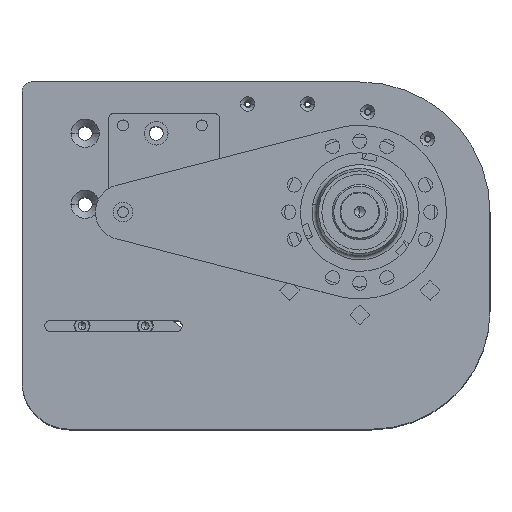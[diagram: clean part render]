
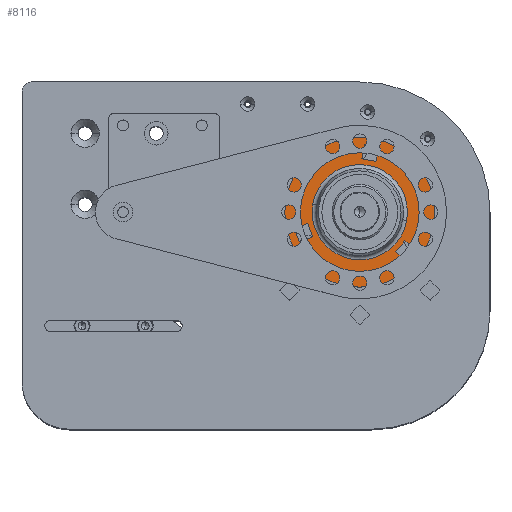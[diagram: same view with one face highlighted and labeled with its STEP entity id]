
A CAD part, top view. The second image highlights one B-rep face of the part: STEP entity #8116.
In plain terms, the highlighted planar face has unit normal (0, 0, 1) as drawn and (1, 0, 0) by its records, which use the part's own axes.
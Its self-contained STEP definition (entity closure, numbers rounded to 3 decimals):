
#495 = EDGE_LOOP ( 'NONE', ( #14896, #14899, #14137, #14839 ) ) ;
#525 = EDGE_LOOP ( 'NONE', ( #14903, #14956, #14961, #14998 ) ) ;
#990 = EDGE_LOOP ( 'NONE', ( #14399, #14143, #14915, #14088 ) ) ;
#1541 = EDGE_LOOP ( 'NONE', ( #14918, #14312 ) ) ;
#1657 = EDGE_LOOP ( 'NONE', ( #14851, #14940 ) ) ;
#2573 = CARTESIAN_POINT ( 'NONE',  ( 2., 0., 30.166 ) ) ;
#2589 = CARTESIAN_POINT ( 'NONE',  ( 2., 0., -47.5 ) ) ;
#2763 = CARTESIAN_POINT ( 'NONE',  ( 2., 17.353, 39.056 ) ) ;
#2766 = CARTESIAN_POINT ( 'NONE',  ( 2., 20.647, 26.762 ) ) ;
#2779 = CARTESIAN_POINT ( 'NONE',  ( 2., 25.147, 34.556 ) ) ;
#2801 = CARTESIAN_POINT ( 'NONE',  ( 2., 25.147, -34.556 ) ) ;
#2897 = CARTESIAN_POINT ( 'NONE',  ( 2., -42.5, -4.5 ) ) ;
#3166 = CARTESIAN_POINT ( 'NONE',  ( 2., -33.5, -4.5 ) ) ;
#3176 = CARTESIAN_POINT ( 'NONE',  ( 2., -33.5, 4.5 ) ) ;
#3186 = CARTESIAN_POINT ( 'NONE',  ( 2., 20.647, -26.762 ) ) ;
#3198 = CARTESIAN_POINT ( 'NONE',  ( 2., 12.853, -31.262 ) ) ;
#3203 = CARTESIAN_POINT ( 'NONE',  ( 2., 17.353, -39.056 ) ) ;
#3206 = CARTESIAN_POINT ( 'NONE',  ( 2., 12.853, 31.262 ) ) ;
#4858 = CARTESIAN_POINT ( 'NONE',  ( 2., 0., 0. ) ) ;
#4859 = DIRECTION ( 'NONE',  ( -1., 0., 0. ) ) ;
#4860 = DIRECTION ( 'NONE',  ( 0., 0., 1. ) ) ;
#4987 = CARTESIAN_POINT ( 'NONE',  ( 2., 0., 0. ) ) ;
#4988 = DIRECTION ( 'NONE',  ( -1., 0., 0. ) ) ;
#4989 = DIRECTION ( 'NONE',  ( 0., 0., 1. ) ) ;
#5062 = CARTESIAN_POINT ( 'NONE',  ( 2., 12.853, 31.262 ) ) ;
#5069 = DIRECTION ( 'NONE',  ( 0., 0.866, -0.5 ) ) ;
#5082 = CARTESIAN_POINT ( 'NONE',  ( 2., 17.353, 39.056 ) ) ;
#5083 = DIRECTION ( 'NONE',  ( 0., -0.5, -0.866 ) ) ;
#5102 = CARTESIAN_POINT ( 'NONE',  ( 2., 17.353, 39.056 ) ) ;
#5103 = DIRECTION ( 'NONE',  ( 0., -0.866, 0.5 ) ) ;
#5145 = CARTESIAN_POINT ( 'NONE',  ( 2., -33.5, -4.5 ) ) ;
#5149 = CARTESIAN_POINT ( 'NONE',  ( 2., -42.5, -4.5 ) ) ;
#5150 = DIRECTION ( 'NONE',  ( 0., 1., 0. ) ) ;
#5151 = DIRECTION ( 'NONE',  ( 0., 0., 1. ) ) ;
#5179 = CARTESIAN_POINT ( 'NONE',  ( 2., 0., 0. ) ) ;
#5180 = DIRECTION ( 'NONE',  ( -1., 0., 0. ) ) ;
#5181 = DIRECTION ( 'NONE',  ( 0., 0., 1. ) ) ;
#5182 = CARTESIAN_POINT ( 'NONE',  ( 2., 0., 0. ) ) ;
#5183 = DIRECTION ( 'NONE',  ( -1., 0., 0. ) ) ;
#5184 = DIRECTION ( 'NONE',  ( 0., 0., 1. ) ) ;
#5185 = CARTESIAN_POINT ( 'NONE',  ( 2., -42.5, 4.5 ) ) ;
#5186 = DIRECTION ( 'NONE',  ( 0., -1., 0. ) ) ;
#5193 = CARTESIAN_POINT ( 'NONE',  ( 2., -42.5, -4.5 ) ) ;
#5194 = DIRECTION ( 'NONE',  ( 0., 0., -1. ) ) ;
#5315 = CARTESIAN_POINT ( 'NONE',  ( 2., 20.647, -26.762 ) ) ;
#5316 = DIRECTION ( 'NONE',  ( 0., -0.866, -0.5 ) ) ;
#5320 = CARTESIAN_POINT ( 'NONE',  ( 2., 17.353, -39.056 ) ) ;
#5324 = CARTESIAN_POINT ( 'NONE',  ( 2., 25.147, 34.556 ) ) ;
#5326 = DIRECTION ( 'NONE',  ( 0., 0.5, 0.866 ) ) ;
#5327 = DIRECTION ( 'NONE',  ( 0., 0.5, -0.866 ) ) ;
#5328 = CARTESIAN_POINT ( 'NONE',  ( 2., 25.147, -34.556 ) ) ;
#5329 = DIRECTION ( 'NONE',  ( 0., 0.866, 0.5 ) ) ;
#5330 = CARTESIAN_POINT ( 'NONE',  ( 2., 25.147, -34.556 ) ) ;
#5331 = DIRECTION ( 'NONE',  ( 0., -0.5, 0.866 ) ) ;
#8116 = ADVANCED_FACE ( 'NONE', ( #9812, #9943, #9946, #9853, #9817 ), #8973, .F. ) ;
#8283 = CIRCLE ( 'NONE', #12406, 30.166 ) ;
#8516 = DIRECTION ( 'NONE',  ( -1., 0., 0. ) ) ;
#8973 = PLANE ( 'NONE',  #12083 ) ;
#9088 = CARTESIAN_POINT ( 'NONE',  ( 2., 47.5, 0. ) ) ;
#9093 = DIRECTION ( 'NONE',  ( 0., 0., -1. ) ) ;
#9395 = EDGE_CURVE ( 'NONE', #13768, #13869, #8283, .T. ) ;
#9438 = EDGE_CURVE ( 'NONE', #13885, #13770, #15075, .T. ) ;
#9471 = EDGE_CURVE ( 'NONE', #14764, #14100, #15121, .T. ) ;
#9476 = EDGE_CURVE ( 'NONE', #14103, #14764, #15127, .T. ) ;
#9481 = EDGE_CURVE ( 'NONE', #14119, #14103, #15134, .T. ) ;
#9501 = EDGE_CURVE ( 'NONE', #14308, #14669, #15166, .T. ) ;
#9502 = EDGE_CURVE ( 'NONE', #14669, #14696, #15163, .T. ) ;
#9514 = EDGE_CURVE ( 'NONE', #13869, #13768, #15187, .T. ) ;
#9515 = EDGE_CURVE ( 'NONE', #13770, #13885, #15189, .T. ) ;
#9518 = EDGE_CURVE ( 'NONE', #14696, #13749, #15192, .T. ) ;
#9519 = EDGE_CURVE ( 'NONE', #13749, #14308, #15193, .T. ) ;
#9575 = EDGE_CURVE ( 'NONE', #14713, #14724, #15290, .T. ) ;
#9576 = EDGE_CURVE ( 'NONE', #14100, #14119, #15291, .T. ) ;
#9577 = EDGE_CURVE ( 'NONE', #14724, #14729, #15286, .T. ) ;
#9578 = EDGE_CURVE ( 'NONE', #14729, #14175, #15295, .T. ) ;
#9579 = EDGE_CURVE ( 'NONE', #14175, #14713, #15297, .T. ) ;
#9812 = FACE_BOUND ( 'NONE', #1541, .T. ) ;
#9817 = FACE_OUTER_BOUND ( 'NONE', #1657, .T. ) ;
#9853 = FACE_BOUND ( 'NONE', #990, .T. ) ;
#9943 = FACE_BOUND ( 'NONE', #525, .T. ) ;
#9946 = FACE_BOUND ( 'NONE', #495, .T. ) ;
#12083 = AXIS2_PLACEMENT_3D ( 'NONE', #9088, #8516, #9093 ) ;
#12406 = AXIS2_PLACEMENT_3D ( 'NONE', #4858, #4859, #4860 ) ;
#12425 = AXIS2_PLACEMENT_3D ( 'NONE', #4987, #4988, #4989 ) ;
#12460 = AXIS2_PLACEMENT_3D ( 'NONE', #5179, #5180, #5181 ) ;
#12461 = AXIS2_PLACEMENT_3D ( 'NONE', #5182, #5183, #5184 ) ;
#13749 = VERTEX_POINT ( 'NONE', #20052 ) ;
#13768 = VERTEX_POINT ( 'NONE', #20064 ) ;
#13770 = VERTEX_POINT ( 'NONE', #20069 ) ;
#13869 = VERTEX_POINT ( 'NONE', #2573 ) ;
#13885 = VERTEX_POINT ( 'NONE', #2589 ) ;
#14088 = ORIENTED_EDGE ( 'NONE', *, *, #9518, .F. ) ;
#14100 = VERTEX_POINT ( 'NONE', #2766 ) ;
#14103 = VERTEX_POINT ( 'NONE', #2763 ) ;
#14119 = VERTEX_POINT ( 'NONE', #2779 ) ;
#14137 = ORIENTED_EDGE ( 'NONE', *, *, #9578, .F. ) ;
#14143 = ORIENTED_EDGE ( 'NONE', *, *, #9501, .F. ) ;
#14175 = VERTEX_POINT ( 'NONE', #2801 ) ;
#14308 = VERTEX_POINT ( 'NONE', #2897 ) ;
#14312 = ORIENTED_EDGE ( 'NONE', *, *, #9395, .T. ) ;
#14399 = ORIENTED_EDGE ( 'NONE', *, *, #9502, .F. ) ;
#14669 = VERTEX_POINT ( 'NONE', #3166 ) ;
#14696 = VERTEX_POINT ( 'NONE', #3176 ) ;
#14713 = VERTEX_POINT ( 'NONE', #3186 ) ;
#14724 = VERTEX_POINT ( 'NONE', #3198 ) ;
#14729 = VERTEX_POINT ( 'NONE', #3203 ) ;
#14764 = VERTEX_POINT ( 'NONE', #3206 ) ;
#14839 = ORIENTED_EDGE ( 'NONE', *, *, #9577, .F. ) ;
#14851 = ORIENTED_EDGE ( 'NONE', *, *, #9515, .F. ) ;
#14896 = ORIENTED_EDGE ( 'NONE', *, *, #9575, .F. ) ;
#14899 = ORIENTED_EDGE ( 'NONE', *, *, #9579, .F. ) ;
#14903 = ORIENTED_EDGE ( 'NONE', *, *, #9471, .F. ) ;
#14915 = ORIENTED_EDGE ( 'NONE', *, *, #9519, .F. ) ;
#14918 = ORIENTED_EDGE ( 'NONE', *, *, #9514, .T. ) ;
#14940 = ORIENTED_EDGE ( 'NONE', *, *, #9438, .F. ) ;
#14956 = ORIENTED_EDGE ( 'NONE', *, *, #9476, .F. ) ;
#14961 = ORIENTED_EDGE ( 'NONE', *, *, #9481, .F. ) ;
#14998 = ORIENTED_EDGE ( 'NONE', *, *, #9576, .F. ) ;
#15075 = CIRCLE ( 'NONE', #12425, 47.5 ) ;
#15121 = LINE ( 'NONE', #5062, #15123 ) ;
#15123 = VECTOR ( 'NONE', #5069, 1000. ) ;
#15127 = LINE ( 'NONE', #5082, #15129 ) ;
#15129 = VECTOR ( 'NONE', #5083, 1000. ) ;
#15134 = LINE ( 'NONE', #5102, #15137 ) ;
#15137 = VECTOR ( 'NONE', #5103, 1000. ) ;
#15163 = LINE ( 'NONE', #5145, #15171 ) ;
#15166 = LINE ( 'NONE', #5149, #15169 ) ;
#15169 = VECTOR ( 'NONE', #5150, 1000. ) ;
#15171 = VECTOR ( 'NONE', #5151, 1000. ) ;
#15187 = CIRCLE ( 'NONE', #12460, 30.166 ) ;
#15189 = CIRCLE ( 'NONE', #12461, 47.5 ) ;
#15192 = LINE ( 'NONE', #5185, #15194 ) ;
#15193 = LINE ( 'NONE', #5193, #15196 ) ;
#15194 = VECTOR ( 'NONE', #5186, 1000. ) ;
#15196 = VECTOR ( 'NONE', #5194, 1000. ) ;
#15286 = LINE ( 'NONE', #5320, #15296 ) ;
#15290 = LINE ( 'NONE', #5315, #15292 ) ;
#15291 = LINE ( 'NONE', #5324, #15294 ) ;
#15292 = VECTOR ( 'NONE', #5316, 1000. ) ;
#15294 = VECTOR ( 'NONE', #5326, 1000. ) ;
#15295 = LINE ( 'NONE', #5328, #15298 ) ;
#15296 = VECTOR ( 'NONE', #5327, 1000. ) ;
#15297 = LINE ( 'NONE', #5330, #15300 ) ;
#15298 = VECTOR ( 'NONE', #5329, 1000. ) ;
#15300 = VECTOR ( 'NONE', #5331, 1000. ) ;
#20052 = CARTESIAN_POINT ( 'NONE',  ( 2., -42.5, 4.5 ) ) ;
#20064 = CARTESIAN_POINT ( 'NONE',  ( 2., 0., -30.166 ) ) ;
#20069 = CARTESIAN_POINT ( 'NONE',  ( 2., 0., 47.5 ) ) ;
